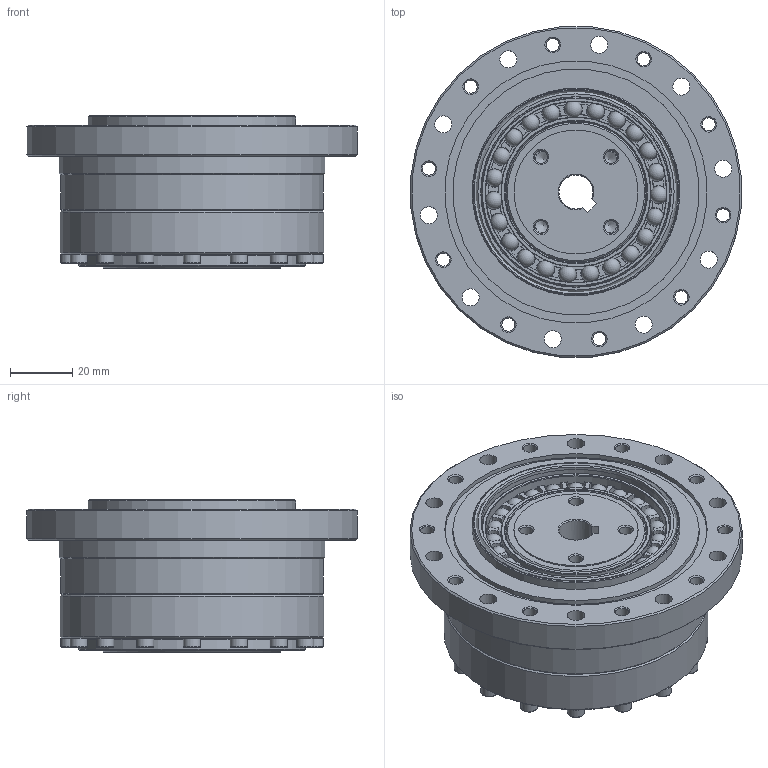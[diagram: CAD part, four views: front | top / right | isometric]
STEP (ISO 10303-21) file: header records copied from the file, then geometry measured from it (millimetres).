
FILE_DESCRIPTION(/* description */ (''),/* implementation_level */ '2;1');
FILE_NAME(/* name */ 'FSG-25-XX-U-I_孔径11.stp',/* time_stamp */ '2025-02-05T16:19:11+08:00',/* author */ (''),/* organization */ (''),/* preprocessor_version */ 'ST-DEVELOPER v16.7',/* originating_system */ 'SIEMENS PLM Software NX 12.0',/* authorisation */ '');
FILE_SCHEMA (('AUTOMOTIVE_DESIGN { 1 0 10303 214 3 1 1 1 }'));
Length unit declared in the file: millimetre
Products named in the file (15): EB456109-25KCH-4680338; EB456109-25KCH-0481339; EB456109-25KCH-02340; EB456109-25KCH-01341; TC-58x70x5; O型密封圈68.6-66-0.75; GB-T70.1-2000,M6x16; GB-T70.1-2000,M3x20; 柔轮垫块LSS-25; 发生器FSG-25-XXDL-直径11_stp34
7; 刚轮FSG-25_stp; 柔轮FSG-25_stp349; EB456109-25KCH_stp350; 交叉轴承LSS-25; FSG-25-XX-U-I_孔径11__stp
Assembly tree (36 placements, depth 3):
  FSG-25-XX-U-I_孔径11__stp
    柔轮FSG-25_stp349
    刚轮FSG-25_stp
    发生器FSG-25-XXDL-直径11_stp34
7
    柔轮垫块LSS-25
    交叉轴承LSS-25
      TC-58x70x5
    EB456109-25KCH_stp350
      EB456109-25KCH-01341
      EB456109-25KCH-02340
      EB456109-25KCH-0481339
      EB456109-25KCH-4680338
    GB-T70.1-2000,M3x20  x16
    GB-T70.1-2000,M6x16  x8
    O型密封圈68.6-66-0.75
Bounding box: 106.59 x 106.59 x 49 mm (x, y, z)
Volume: 196865.6 mm3; surface area: 116953.3 mm2
Topology: 58 solids, 58 shells, 1218 faces, 2617 edges, 1519 vertices
Faces by surface type: plane 457, cone 383, cylinder 237, torus 116, sphere 23, bspline 2
Full cylindrical faces by diameter (mm): 2.05 x2, 2.5 x16, 2.874 x16, 3.5 x16, 4.2 x14, 5 x8, 5.5 x26, 5.795 x8, 6.5 x16, 6.8 x8, 10 x8, 15 x1, 20 x3, 22 x1, 40 x2, 41 x1, 43.5 x1, 45.212 x2, 48.38 x2, 50 x1, 52.6 x1, 53 x1, 55.3 x1, 55.6 x1, 56.6 x1, 58 x2, 58.33 x2, 61.2 x2, 61.341 x2, 62.286 x1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
Entity records: 19789 total; most frequent: CARTESIAN_POINT 4749, DIRECTION 3051, ORIENTED_EDGE 2196, AXIS2_PLACEMENT_3D 1406, EDGE_CURVE 1098, EDGE_LOOP 1071, VERTEX_POINT 854, FACE_BOUND 809
